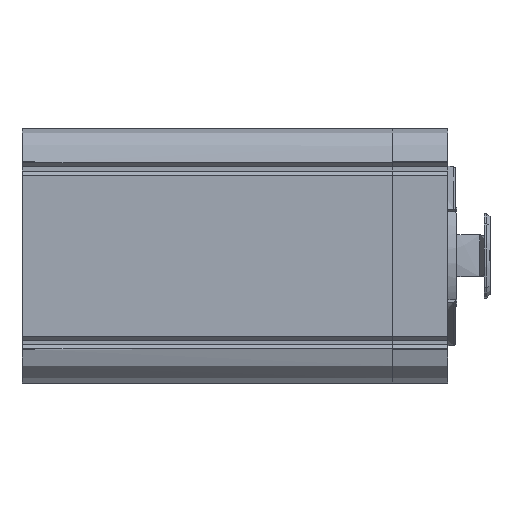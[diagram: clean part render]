
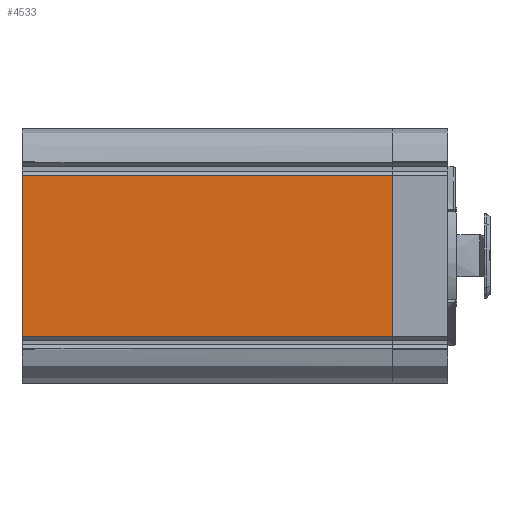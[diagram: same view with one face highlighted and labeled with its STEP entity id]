
A CAD part, top view. The second image highlights one B-rep face of the part: STEP entity #4533.
In plain terms, the highlighted planar face has unit normal (0, 0, 1).
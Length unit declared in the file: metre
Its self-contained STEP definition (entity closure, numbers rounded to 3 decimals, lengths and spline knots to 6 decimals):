
#4533=ADVANCED_FACE('0:36344',(#11540),#11541,.F.);
#11540=FACE_OUTER_BOUND('',#22944,.T.);
#11541=PLANE('',#22945);
#22944=EDGE_LOOP('',(#38495,#38496,#38497,#38498));
#22945=AXIS2_PLACEMENT_3D('',#38499,#38500,#38501);
#38495=ORIENTED_EDGE('',*,*,#63901,.F.);
#38496=ORIENTED_EDGE('',*,*,#63837,.F.);
#38497=ORIENTED_EDGE('',*,*,#63895,.T.);
#38498=ORIENTED_EDGE('',*,*,#63723,.F.);
#38499=CARTESIAN_POINT('',(0.141,-0.079,0.028755));
#38500=DIRECTION('',(-0.0,0.0,-1.0));
#38501=DIRECTION('',(-1.0,0.0,0.0));
#63723=EDGE_CURVE('0:36458',#76260,#76224,#76262,.T.);
#63837=EDGE_CURVE('1:49945',#76464,#76466,#76467,.F.);
#63895=EDGE_CURVE('0:88740',#76464,#76224,#76529,.T.);
#63901=EDGE_CURVE('0:87001',#76466,#76260,#76535,.T.);
#76224=VERTEX_POINT('',#96400);
#76260=VERTEX_POINT('',#96450);
#76262=LINE('',#96453,#96454);
#76464=VERTEX_POINT('',#96721);
#76466=VERTEX_POINT('',#96724);
#76467=LINE('',#96725,#96726);
#76529=LINE('',#96820,#96821);
#76535=LINE('',#96830,#96831);
#96400=CARTESIAN_POINT('',(0.1832,-0.1015,0.028755));
#96450=CARTESIAN_POINT('',(0.1832,-0.0825,0.028755));
#96453=CARTESIAN_POINT('',(0.1832,-0.092,0.028755));
#96454=VECTOR('',#122485,1.0);
#96721=CARTESIAN_POINT('',(0.1395,-0.1015,0.028755));
#96724=CARTESIAN_POINT('',(0.1395,-0.0825,0.028755));
#96725=CARTESIAN_POINT('',(0.1395,-0.082583,0.028755));
#96726=VECTOR('',#122645,1.0);
#96820=CARTESIAN_POINT('',(0.141,-0.1015,0.028755));
#96821=VECTOR('',#122684,1.0);
#96830=CARTESIAN_POINT('',(0.141,-0.0825,0.028755));
#96831=VECTOR('',#122688,1.0);
#122485=DIRECTION('',(0.0,-1.0,0.0));
#122645=DIRECTION('',(0.0,-1.0,0.0));
#122684=DIRECTION('',(1.0,-0.0,-0.0));
#122688=DIRECTION('',(1.0,-0.0,-0.0));
